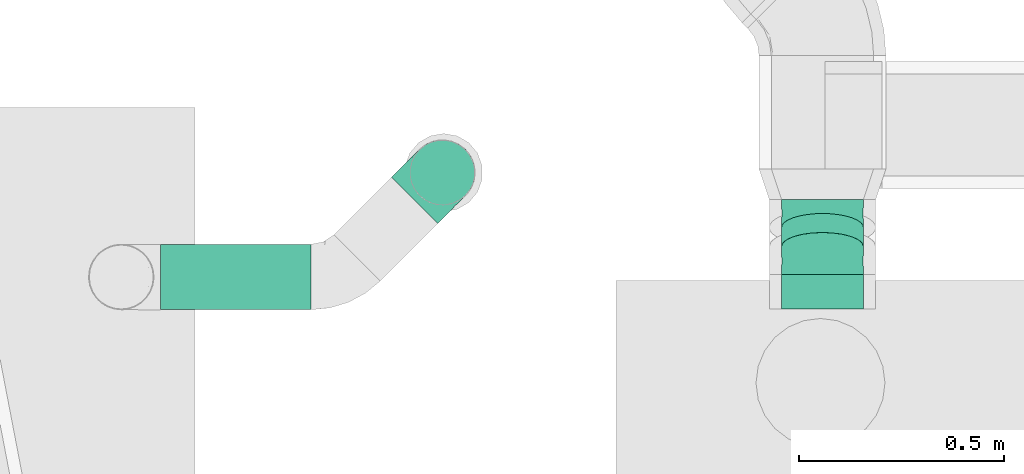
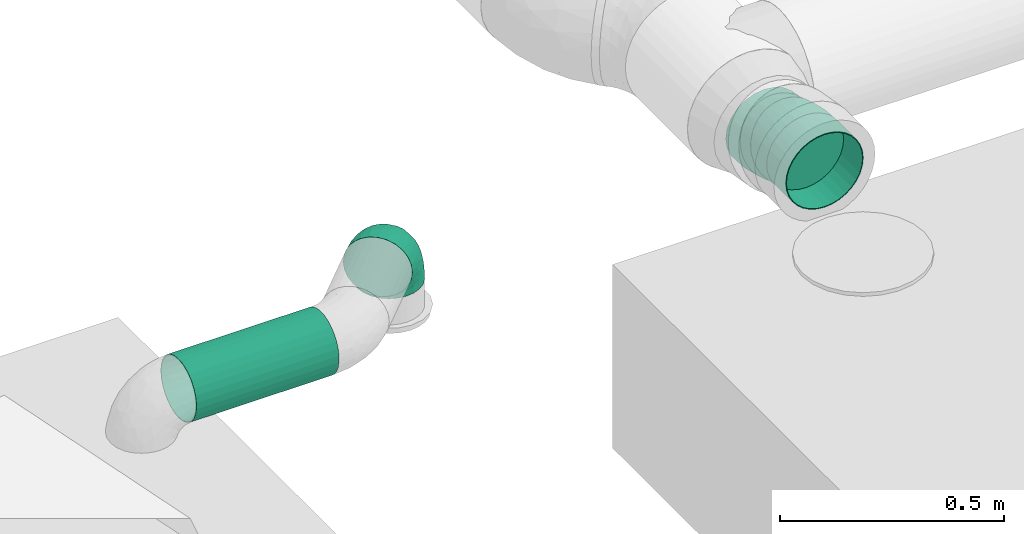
# One storey, part 12 of 21: 3 flow fittings, 3 flow segments.
"""IFC2X3 building model written with IfcOpenShell, lengths in millimetres."""

from ifc_helpers import new_model, entity, si_unit, converted_unit, derived_unit, direction, frame, origin_with_axes, origin_2d_with_axis, place, context, subcontext, project, spatial, hollow_circle, extrude, open_shell, surface_model, source, transform, mapped, type_object, element, save


model = new_model("IFC2X3")

# Units and contexts
model_context = context("Model", 3, precision=0.01, world=frame((0.0, 4.29681676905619e-09, 0.0)), true_north=direction((4.01073788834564e-13, 1.0)))
plan_context = context("Plan", 3, precision=0.01, world=frame((0.0, 4.29681676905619e-09, 0.0)), true_north=direction((4.01073788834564e-13, 1.0)))
body_context = subcontext(model_context, "Body", "Model", "MODEL_VIEW")
ifc_project = project(units=[converted_unit("PLANEANGLEUNIT", "DEGREE", entity("IfcPositiveLengthMeasure", 0.0174532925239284), si_unit("PLANEANGLEUNIT", "RADIAN"), dimensions=[0, 0, 0, 0, 0, 0, 0]), si_unit("AREAUNIT", "SQUARE_METRE"), si_unit("LENGTHUNIT", "METRE", prefix="MILLI"), si_unit("MASSUNIT", "GRAM", prefix="KILO"), si_unit("POWERUNIT", "WATT"), si_unit("PRESSUREUNIT", "PASCAL"), si_unit("FORCEUNIT", "NEWTON", prefix="KILO"), si_unit("ELECTRICVOLTAGEUNIT", "VOLT"), si_unit("ELECTRICCURRENTUNIT", "AMPERE"), si_unit("THERMODYNAMICTEMPERATUREUNIT", "DEGREE_CELSIUS"), si_unit("TIMEUNIT", "SECOND"), si_unit("VOLUMEUNIT", "CUBIC_METRE"), derived_unit("LINEARVELOCITYUNIT", [(si_unit("LENGTHUNIT", "METRE"), 1), (si_unit("TIMEUNIT", "SECOND"), -1)]), derived_unit("VOLUMETRICFLOWRATEUNIT", [(si_unit("VOLUMEUNIT", "CUBIC_METRE"), 1), (si_unit("TIMEUNIT", "SECOND"), -1)]), derived_unit("THERMALTRANSMITTANCEUNIT", [(si_unit("POWERUNIT", "WATT"), 1), (si_unit("THERMODYNAMICTEMPERATUREUNIT", "KELVIN"), -1), (si_unit("AREAUNIT", "SQUARE_METRE"), -1)]), derived_unit("SOUNDPRESSUREUNIT", [(si_unit("PRESSUREUNIT", "PASCAL"), 1)])], contexts=[model_context, plan_context])

# Site, building, storey
site_placement = place(None, frame((0.0, -4.29681676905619e-09, 0.0), z_axis=(0.0, 0.0, 1.0), x_axis=(1.0, 0.0, 0.0)))
site = spatial("IfcSite", under=ifc_project, at=site_placement, Name="ENGM", CompositionType="ELEMENT")
building_placement = place(site_placement, frame((0.0, 4.29681676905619e-09, 0.0), z_axis=(0.0, 0.0, 1.0), x_axis=(1.0, 0.0, 0.0)))
building = spatial("IfcBuilding", under=site, at=building_placement, Name="TI", CompositionType="ELEMENT")
storey_placement = place(building_placement, frame((0.0, 0.0, 210900.0), z_axis=(0.0, 0.0, 1.0), x_axis=(1.0, 0.0, 0.0)))
storey = spatial("IfcBuildingStorey", under=building, at=storey_placement, Name="Nivå F", CompositionType="ELEMENT", Elevation=210900.0)

# Flow fittings
duct_fitting_type_1 = type_object("IfcDuctFittingType", Name="magicirc_elbow_short_001", PredefinedType="BEND")
shared_shape_1 = source(origin_with_axes(), body_context, "Body", "SurfaceModel", [
    surface_model("IfcShellBasedSurfaceModel", [(-96.0, 40.0, -69.28203), (-96.0, 20.70552, -77.27406), (-96.0, 0.0, -80.0), (-96.0, -56.56854, -56.56854), (-96.0, 77.27406, -20.70552), (-96.0, 69.28203, -40.0), (-96.0, 56.56854, -56.56854), (-96.0, -80.0, 0.0), (-96.0, 80.0, 0.0), (-96.0, -40.0, -69.28203), (-96.0, -20.70552, -77.27406), (-96.0, -77.27406, -20.70552), (-96.0, -69.28203, -40.0), (-96.0, 69.28203, 40.0), (-96.0, 77.27406, 20.70552), (-96.0, 56.56854, 56.56854), (-96.0, 20.70552, 77.27406), (-96.0, 40.0, 69.28203), (-96.0, -56.56854, 56.56854), (-96.0, -77.27406, 20.70552), (-96.0, -69.28203, 40.0), (-96.0, -40.0, 69.28203), (-96.0, -20.70552, 77.27406), (-96.0, 0.0, 80.0), (0.0, 96.0, -80.0), (-20.70552, 96.0, -77.27406), (-40.0, 96.0, -69.28203), (56.56854, 96.0, -56.56854), (-56.56854, 96.0, -56.56854), (-69.28203, 96.0, -40.0), (-77.27406, 96.0, -20.70552), (-69.28203, 96.0, 40.0), (80.0, 96.0, 0.0), (20.70552, 96.0, -77.27406), (40.0, 96.0, -69.28203), (69.28203, 96.0, -40.0), (77.27406, 96.0, -20.70552), (-80.0, 96.0, 0.0), (-77.27406, 96.0, 20.70552), (-20.70552, 96.0, 77.27406), (-56.56854, 96.0, 56.56854), (-40.0, 96.0, 69.28203), (56.56854, 96.0, 56.56854), (69.28203, 96.0, 40.0), (77.27406, 96.0, 20.70552), (20.70552, 96.0, 77.27406), (40.0, 96.0, 69.28203), (0.0, 96.0, 80.0), (-69.65714, 6.28172, 79.96111), (-55.13809, -64.44506, 39.50294), (-78.49025, -65.24822, 44.92297), (-66.78623, -74.13872, 22.97955), (-79.91237, 22.41513, 77.28168), (-75.12502, 46.35062, 68.0012), (-46.28207, -43.73977, 60.51883), (-62.97607, -34.53622, 70.0448), (-67.13167, -51.75304, 58.52047), (-50.44785, -74.00295, 0.0), (-76.22768, -77.39693, 0.0), (-27.18937, 68.98054, 76.89414), (-6.30632, 70.64214, 79.95132), (-47.75845, -13.62124, 76.38812), (-29.86092, -28.96824, 65.87602), (57.60059, 33.47196, 39.01765), (51.75305, 67.13168, 58.52047), (43.73976, 46.28206, 60.51883), (-74.25916, -14.36459, 78.28299), (10.2254, -42.43563, 0.0), (-6.4993, -53.78904, 15.46457), (-8.0, -56.42047, 0.0), (-84.19087, 70.906, 41.71004), (24.72725, -2.06889, 53.4325), (-0.01802, -25.92843, 53.83674), (10.21505, -32.07542, 38.02021), (-64.56198, 27.52019, 77.2893), (-41.75749, 15.12314, 79.98806), (-96.0, 30.35276, 73.27805), (-24.53367, -60.96696, 23.50038), (-29.22392, -65.21171, 0.0), (-16.40083, 51.31221, 79.86096), (-83.05291, 83.05291, 19.0855), (-84.68629, 84.68629, 0.0), (-82.41856, 62.2587, 53.33399), (-46.30222, 75.90275, 67.84453), (-9.52607, -47.72322, 35.41872), (74.13872, 66.78623, 22.97955), (14.36459, 74.25915, 78.28299), (34.53622, 62.97607, 70.04481), (65.24823, 78.49025, 44.92297), (-12.39357, 25.40172, 78.86526), (-25.63177, 1.26407, 76.9124), (69.81868, 42.56251, 16.79807), (64.44506, 55.13809, 39.50294), (60.96696, 24.53367, 23.50038), (77.39693, 76.22768, 0.0), (74.00295, 50.44785, 0.0), (-66.59951, 66.59951, 58.63708), (-52.47749, 53.06315, 72.00416), (-76.48575, 78.93853, 38.58675), (-62.2587, 82.41856, 53.33399), (28.96823, 29.86091, 65.87602), (13.62124, 47.75844, 76.38812), (-33.73129, 40.02145, 79.0537), (46.13369, 26.24415, 50.15154), (42.43563, -10.2254, 0.0), (56.42047, 8.0, 0.0), (50.0006, 1.26038, 17.57639), (-45.45369, -68.83564, 23.69149), (-33.34939, -57.45722, 39.17207), (23.38464, -27.90661, 24.78871), (35.96834, -11.07246, 30.53911), (-26.24416, -46.1337, 50.15154), (36.67491, -17.59821, 14.56442), (28.45079, -28.45079, 0.0), (65.21171, 29.22392, 0.0), (49.59687, 12.14401, 34.83259), (-47.15333, 29.07461, 78.91273), (-0.98172, 51.31629, 79.49208), (12.49517, 20.08048, 71.22925), (-1.95171, 1.9517, 70.92726), (13.07254, 1.13338, 63.57905), (-1.93327, -13.48238, 63.7412), (-18.92982, -13.00489, 70.66721), (7.85136, -42.49384, 21.32329), (-68.98054, 27.18937, -76.89414), (-22.41513, 79.91236, -77.28168), (-27.52019, 64.56198, -77.2893), (-46.35062, 75.12502, -68.0012), (-74.25916, -14.36459, -78.28299), (-42.56251, -69.81867, -16.79807), (-66.78623, -74.13872, -22.97955), (-70.64214, 6.30632, -79.95132), (-25.40172, 12.39356, -78.86526), (-15.12315, 41.75749, -79.98806), (-1.26408, 25.63177, -76.9124), (-78.93853, 76.48575, -38.58675), (-66.59952, 66.59951, -58.63708), (-82.41856, 62.2587, -53.33399), (60.96695, 24.53367, -23.50038), (53.78904, 6.4993, -15.46457), (-55.13809, -64.44506, -39.50294), (-24.53367, -60.96696, -23.50038), (-29.86092, -28.96824, -65.87602), (-26.24416, -46.1337, -50.15154), (-46.28207, -43.73977, -60.51883), (74.13872, 66.78623, -22.97955), (-40.02145, 33.73129, -79.0537), (-78.49025, -65.24822, -44.92297), (-75.90275, 46.30222, -67.84453), (-70.906, 84.19087, -41.71005), (-67.13167, -51.75305, -58.52047), (-62.97607, -34.53622, -70.0448), (-33.47196, -57.60059, -39.01766), (-51.31221, 16.40082, -79.86096), (-6.28172, 69.65713, -79.96111), (51.75304, 67.13167, -58.52047), (-83.05291, 83.05291, -19.0855), (68.83563, 45.45369, -23.69149), (-62.2587, 82.41856, -53.33399), (34.53622, 62.97606, -70.0448), (-1.26039, -50.0006, -17.5764), (-30.35276, 96.0, -73.27805), (13.62124, 47.75844, -76.38812), (14.36459, 74.25915, -78.28299), (65.24822, 78.49025, -44.92298), (2.06888, -24.72726, -53.4325), (25.92842, 0.01801, -53.83674), (32.07541, -10.21507, -38.02021), (47.72321, 9.52606, -35.41872), (28.96823, 29.86092, -65.87602), (64.44506, 55.13809, -39.50294), (-53.06315, 52.47748, -72.00416), (43.73977, 46.28207, -60.51883), (-47.75844, -13.62124, -76.38812), (57.45722, 33.34938, -39.17207), (27.90661, -23.38464, -24.78871), (11.07245, -35.96834, -30.53911), (46.1337, 26.24416, -50.15154), (17.5982, -36.67492, -14.56442), (-12.14401, -49.59687, -34.8326), (-29.07462, 47.15333, -78.91272), (-51.31629, 0.98172, -79.49208), (-20.08047, -12.49518, -71.22924), (-1.9517, 1.9517, -70.92726), (-1.13337, -13.07254, -63.57905), (13.48238, 1.93328, -63.7412), (13.00488, 18.92982, -70.66721), (42.49384, -7.85136, -21.32329)], [open_shell([[[0, 1, 2]], [[0, 2, 3]], [[4, 5, 6]], [[6, 0, 3]], [[6, 7, 8]], [[9, 3, 10]], [[3, 2, 10]], [[11, 7, 12]], [[3, 12, 7]], [[3, 7, 6]], [[8, 4, 6]], [[13, 14, 8]], [[15, 13, 8]], [[16, 17, 15]], [[8, 16, 15]], [[18, 16, 8]], [[19, 20, 7]], [[7, 20, 18]], [[21, 22, 18]], [[22, 16, 18]], [[16, 22, 23]], [[8, 7, 18]], [[24, 25, 26]], [[27, 24, 26]], [[28, 29, 30]], [[31, 32, 26]], [[28, 31, 26]], [[33, 27, 34]], [[33, 24, 27]], [[35, 32, 36]], [[32, 35, 27]], [[26, 32, 27]], [[28, 30, 37]], [[37, 38, 31]], [[31, 39, 32]], [[40, 41, 39]], [[40, 39, 31]], [[32, 39, 42]], [[32, 43, 44]], [[42, 43, 32]], [[42, 45, 46]], [[42, 39, 45]], [[47, 45, 39]], [[28, 37, 31]], [[16, 23, 48]], [[49, 50, 51]], [[52, 53, 17]], [[54, 55, 56]], [[57, 51, 58]], [[39, 59, 60]], [[61, 55, 62]], [[63, 64, 65]], [[50, 18, 20]], [[56, 55, 21]], [[66, 23, 22]], [[67, 68, 69]], [[70, 14, 13]], [[55, 61, 66]], [[71, 72, 73]], [[74, 48, 75]], [[22, 21, 55]], [[17, 53, 15]], [[17, 76, 52]], [[77, 78, 69]], [[79, 60, 59]], [[8, 80, 81]], [[55, 54, 62]], [[8, 14, 80]], [[82, 70, 13]], [[21, 18, 56]], [[13, 15, 82]], [[41, 83, 59]], [[73, 72, 84]], [[51, 19, 58]], [[51, 20, 19]], [[43, 85, 44]], [[64, 42, 46]], [[86, 87, 45]], [[43, 42, 88]], [[46, 45, 87]], [[89, 75, 90]], [[85, 43, 88]], [[91, 92, 93]], [[87, 64, 46]], [[52, 76, 16]], [[85, 94, 44]], [[41, 40, 83]], [[91, 95, 85]], [[83, 96, 97]], [[38, 98, 31]], [[80, 98, 38]], [[98, 96, 99]], [[100, 87, 101]], [[81, 80, 37]], [[77, 69, 68]], [[41, 59, 39]], [[59, 83, 97]], [[102, 75, 89]], [[100, 103, 65]], [[40, 31, 99]], [[39, 60, 47]], [[104, 105, 106]], [[107, 49, 51]], [[86, 45, 47]], [[77, 107, 78]], [[57, 78, 107]], [[49, 107, 108]], [[73, 109, 110]], [[108, 84, 111]], [[104, 112, 113]], [[103, 100, 71]], [[114, 91, 93]], [[60, 86, 47]], [[114, 93, 105]], [[115, 93, 63]], [[93, 115, 106]], [[66, 48, 23]], [[116, 75, 102]], [[74, 116, 97]], [[82, 53, 96]], [[99, 83, 40]], [[96, 53, 97]], [[79, 59, 102]], [[60, 117, 86]], [[65, 64, 87]], [[88, 64, 92]], [[50, 56, 18]], [[56, 49, 108]], [[48, 61, 75]], [[90, 75, 61]], [[118, 89, 119]], [[79, 117, 60]], [[119, 120, 118]], [[71, 110, 115]], [[119, 121, 120]], [[122, 121, 119]], [[72, 62, 111]], [[90, 122, 119]], [[72, 111, 84]], [[71, 120, 121]], [[74, 97, 53]], [[59, 97, 102]], [[19, 7, 58]], [[94, 85, 95]], [[94, 32, 44]], [[87, 86, 101]], [[55, 66, 22]], [[48, 66, 61]], [[98, 99, 31]], [[83, 99, 96]], [[53, 82, 15]], [[70, 96, 98]], [[102, 89, 79]], [[117, 89, 101]], [[89, 117, 79]], [[86, 117, 101]], [[96, 70, 82]], [[70, 98, 80]], [[80, 14, 70]], [[37, 80, 38]], [[51, 50, 20]], [[56, 50, 49]], [[64, 88, 42]], [[85, 88, 92]], [[52, 48, 74]], [[48, 52, 16]], [[52, 74, 53]], [[107, 51, 57]], [[108, 107, 77]], [[77, 68, 84]], [[108, 111, 54]], [[77, 84, 108]], [[84, 123, 73]], [[109, 73, 123]], [[71, 73, 110]], [[113, 109, 123]], [[93, 106, 105]], [[109, 112, 110]], [[92, 63, 93]], [[112, 106, 110]], [[113, 112, 109]], [[106, 112, 104]], [[71, 115, 103]], [[110, 106, 115]], [[64, 63, 92]], [[103, 115, 63]], [[67, 113, 123]], [[84, 68, 123]], [[68, 67, 123]], [[95, 91, 114]], [[92, 91, 85]], [[100, 65, 87]], [[63, 65, 103]], [[108, 54, 56]], [[62, 54, 111]], [[97, 116, 102]], [[74, 75, 116]], [[122, 61, 62]], [[89, 90, 119]], [[61, 122, 90]], [[121, 62, 72]], [[62, 121, 122]], [[71, 121, 72]], [[71, 100, 120]], [[118, 120, 100]], [[100, 101, 118]], [[89, 118, 101]], [[0, 124, 1]], [[125, 126, 127]], [[10, 2, 128]], [[129, 57, 130]], [[1, 131, 2]], [[132, 133, 134]], [[135, 136, 137]], [[138, 105, 139]], [[5, 137, 6]], [[129, 140, 141]], [[5, 4, 135]], [[142, 143, 144]], [[145, 35, 36]], [[146, 133, 132]], [[130, 12, 147]], [[0, 6, 148]], [[130, 58, 11]], [[149, 30, 29]], [[150, 9, 151]], [[152, 150, 144]], [[3, 9, 150]], [[9, 10, 151]], [[153, 131, 124]], [[3, 147, 12]], [[25, 24, 154]], [[10, 128, 151]], [[12, 130, 11]], [[34, 27, 155]], [[8, 81, 156]], [[138, 157, 114]], [[37, 30, 156]], [[156, 135, 4]], [[29, 158, 149]], [[33, 34, 159]], [[67, 69, 160]], [[28, 158, 29]], [[26, 161, 125]], [[148, 124, 0]], [[126, 154, 133]], [[159, 162, 163]], [[164, 27, 35]], [[28, 26, 127]], [[165, 166, 167]], [[33, 163, 24]], [[168, 167, 166]], [[1, 124, 131]], [[138, 114, 105]], [[104, 139, 105]], [[162, 159, 169]], [[155, 159, 34]], [[170, 164, 145]], [[148, 136, 171]], [[145, 94, 95]], [[159, 172, 169]], [[142, 151, 173]], [[155, 172, 159]], [[124, 148, 171]], [[125, 127, 26]], [[95, 114, 157]], [[156, 4, 8]], [[157, 170, 145]], [[145, 36, 94]], [[170, 157, 174]], [[167, 175, 176]], [[174, 168, 177]], [[67, 178, 113]], [[143, 142, 165]], [[78, 129, 141]], [[36, 32, 94]], [[78, 141, 69]], [[179, 141, 152]], [[141, 179, 160]], [[163, 154, 24]], [[126, 133, 180]], [[126, 180, 171]], [[158, 127, 136]], [[137, 148, 6]], [[136, 127, 171]], [[153, 124, 146]], [[131, 181, 128]], [[144, 150, 151]], [[147, 150, 140]], [[164, 155, 27]], [[155, 170, 174]], [[154, 162, 133]], [[134, 133, 162]], [[182, 132, 183]], [[153, 181, 131]], [[183, 184, 182]], [[165, 176, 179]], [[183, 185, 184]], [[186, 185, 183]], [[166, 169, 177]], [[134, 186, 183]], [[166, 177, 168]], [[165, 184, 185]], [[126, 171, 127]], [[124, 171, 146]], [[58, 130, 57]], [[58, 7, 11]], [[131, 128, 2]], [[151, 128, 173]], [[159, 163, 33]], [[154, 163, 162]], [[135, 137, 5]], [[148, 137, 136]], [[127, 158, 28]], [[149, 136, 135]], [[146, 132, 153]], [[181, 132, 173]], [[132, 181, 153]], [[128, 181, 173]], [[136, 149, 158]], [[149, 135, 156]], [[37, 156, 81]], [[156, 30, 149]], [[145, 164, 35]], [[155, 164, 170]], [[150, 147, 3]], [[130, 147, 140]], [[126, 125, 154]], [[25, 154, 125]], [[161, 25, 125]], [[157, 145, 95]], [[174, 157, 138]], [[138, 139, 168]], [[174, 177, 172]], [[138, 168, 174]], [[168, 187, 167]], [[175, 167, 187]], [[165, 167, 176]], [[113, 175, 187]], [[141, 160, 69]], [[175, 178, 176]], [[140, 152, 141]], [[178, 160, 176]], [[113, 178, 175]], [[160, 178, 67]], [[165, 179, 143]], [[176, 160, 179]], [[150, 152, 140]], [[143, 179, 152]], [[104, 113, 187]], [[168, 139, 187]], [[139, 104, 187]], [[57, 129, 78]], [[140, 129, 130]], [[142, 144, 151]], [[152, 144, 143]], [[174, 172, 155]], [[169, 172, 177]], [[133, 146, 180]], [[171, 180, 146]], [[186, 162, 169]], [[132, 134, 183]], [[162, 186, 134]], [[185, 169, 166]], [[169, 185, 186]], [[165, 185, 166]], [[165, 142, 184]], [[182, 184, 142]], [[142, 173, 182]], [[132, 182, 173]]])]),
])
flow_fitting_placement = place(storey_placement, frame((608801.18353, 691076.23442, 2566.97847999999), z_axis=(0.707106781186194, -0.707106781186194, 9.99999690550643e-07), x_axis=(-7.07106562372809e-07, 7.07106562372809e-07, 0.9999999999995)))
element("IfcFlowFitting", 1, at=flow_fitting_placement, inside=storey, type_object=duct_fitting_type_1, Name="magicirc_elbow_short_001", context=body_context, shape_type="MappedRepresentation", body=[
    mapped(shared_shape_1, transform((0.0, 0.0, 0.0), scale=1.0)),
])
duct_fitting_type_2 = type_object("IfcDuctFittingType", Name="magicirc_elbow_full_radius_001", PredefinedType="BEND")
shared_shape_2 = source(origin_with_axes(), body_context, "Body", "SurfaceModel", [
    surface_model("IfcShellBasedSurfaceModel", [(-35.2654, 25.8819, -96.59259), (-35.2654, 0.0, -100.0), (-35.2654, 96.59259, -25.8819), (-35.2654, 50.0, -86.60254), (-35.2654, 86.60254, -50.0), (-35.2654, 70.71068, -70.71068), (-35.2654, -70.71068, -70.71068), (-35.2654, -50.0, -86.60254), (-35.2654, -25.8819, -96.59259), (-35.2654, -86.60254, -50.0), (-35.2654, -96.59259, -25.8819), (-35.2654, -50.0, 86.60254), (-35.2654, -100.0, 0.0), (-35.2654, -96.59259, 25.8819), (-35.2654, 96.59259, 25.8819), (-35.2654, 100.0, 0.0), (-35.2654, 25.8819, 96.59259), (-35.2654, 86.60254, 50.0), (-35.2654, 70.71068, 70.71068), (-35.2654, 50.0, 86.60254), (-35.2654, -86.60254, 50.0), (-35.2654, -70.71068, 70.71068), (-35.2654, -25.8819, 96.59259), (-35.2654, 0.0, 100.0), (33.13863, 12.06148, -100.0), (24.2865, 36.38251, -96.59259), (16.03762, 59.04611, -86.60254), (57.32311, -54.38483, -70.71068), (3.51882, 93.44124, -50.0), (0.10202, 102.82882, -25.8819), (8.95416, 78.50778, -70.71068), (62.75845, -69.31829, -50.0), (41.99076, -12.25956, -96.59259), (50.23964, -34.92315, -86.60254), (66.17524, -78.70586, -25.8819), (67.34065, -81.90778, 0.0), (3.51882, 93.44124, 50.0), (0.10202, 102.82882, 25.8819), (50.23964, -34.92315, 86.60254), (16.03762, 59.04611, 86.60254), (24.2865, 36.38251, 96.59259), (8.95416, 78.50778, 70.71068), (41.99076, -12.25956, 96.59259), (62.75845, -69.31829, 50.0), (57.32311, -54.38483, 70.71068), (66.17524, -78.70586, 25.8819), (33.13863, 12.06148, 100.0), (-1.06338, 106.03074, 0.0), (10.26605, -58.22165, 78.29765), (5.86662, -77.21666, 59.66315), (15.63178, -88.65224, 36.48875), (1.9808, -11.2337, 98.94429), (7.65098, -35.79456, 91.79557), (-2.5719, 14.58596, 99.31016), (-17.90058, 101.51922, 0.0), (-0.37701, -96.21365, 18.56723), (-6.98461, 39.61171, 92.84831), (16.82906, -95.44233, 0.0), (34.74187, -90.11431, 17.58609), (1.9808, -11.2337, -98.94429), (5.0529, -36.25267, -91.79557), (33.26128, -90.28232, -18.56723), (15.63178, -88.65224, -36.48875), (-2.5719, 14.58596, -99.31016), (20.89683, -74.56643, -59.66315), (-6.98462, 39.61171, -92.84831), (-1.82576, -96.56217, -17.58609), (10.26605, -58.22165, -78.29765)], [open_shell([[[0, 1, 2]], [[3, 0, 2]], [[2, 4, 5]], [[3, 2, 5]], [[6, 2, 1]], [[7, 6, 8]], [[6, 1, 8]], [[9, 10, 6]], [[11, 6, 10]], [[10, 12, 13]], [[2, 6, 11]], [[14, 15, 16]], [[17, 14, 18]], [[14, 16, 19]], [[18, 14, 19]], [[11, 16, 15]], [[20, 21, 13]], [[11, 13, 21]], [[10, 13, 11]], [[11, 22, 16]], [[22, 23, 16]], [[15, 2, 11]], [[24, 25, 26]], [[27, 24, 26]], [[28, 29, 26]], [[28, 26, 30]], [[31, 26, 29]], [[32, 27, 33]], [[32, 24, 27]], [[29, 34, 31]], [[31, 27, 26]], [[34, 29, 35]], [[29, 36, 35]], [[37, 36, 29]], [[36, 38, 35]], [[39, 40, 36]], [[39, 36, 41]], [[42, 36, 40]], [[43, 38, 44]], [[38, 43, 45]], [[38, 45, 35]], [[36, 42, 38]], [[40, 46, 42]], [[29, 47, 37]], [[48, 21, 49]], [[11, 21, 48]], [[21, 20, 49]], [[45, 43, 50]], [[51, 52, 42]], [[11, 48, 52]], [[20, 50, 49]], [[23, 22, 51]], [[23, 53, 16]], [[11, 52, 22]], [[50, 20, 13]], [[44, 38, 48]], [[17, 18, 36]], [[19, 41, 18]], [[42, 46, 51]], [[52, 51, 22]], [[46, 40, 53]], [[54, 14, 37]], [[55, 50, 13]], [[54, 15, 14]], [[37, 14, 17]], [[53, 56, 16]], [[19, 16, 56]], [[51, 53, 23]], [[12, 57, 55]], [[43, 49, 50]], [[48, 38, 52]], [[42, 52, 38]], [[53, 51, 46]], [[44, 48, 49]], [[44, 49, 43]], [[35, 45, 58]], [[36, 37, 17]], [[47, 54, 37]], [[58, 55, 57]], [[12, 55, 13]], [[19, 56, 39]], [[50, 58, 45]], [[19, 39, 41]], [[36, 18, 41]], [[53, 40, 56]], [[35, 58, 57]], [[50, 55, 58]], [[40, 39, 56]], [[1, 59, 8]], [[33, 60, 32]], [[61, 62, 34]], [[0, 63, 1]], [[4, 28, 5]], [[59, 63, 24]], [[5, 26, 3]], [[27, 31, 64]], [[29, 4, 2]], [[9, 64, 62]], [[60, 59, 32]], [[65, 0, 3]], [[12, 10, 66]], [[62, 61, 66]], [[67, 6, 7]], [[63, 65, 25]], [[10, 9, 62]], [[9, 6, 64]], [[60, 67, 7]], [[66, 61, 57]], [[62, 66, 10]], [[2, 15, 54]], [[54, 47, 29]], [[31, 62, 64]], [[29, 28, 4]], [[30, 5, 28]], [[7, 8, 60]], [[65, 26, 25]], [[6, 67, 64]], [[59, 60, 8]], [[26, 5, 30]], [[63, 0, 65]], [[24, 63, 25]], [[60, 33, 67]], [[59, 1, 63]], [[26, 65, 3]], [[67, 33, 27]], [[31, 34, 62]], [[12, 66, 57]], [[35, 57, 61]], [[27, 64, 67]], [[35, 61, 34]], [[32, 59, 24]], [[2, 54, 29]]])]),
])
for number, where, z_axis, x_axis, name in (
    (2, (609729.51365, 690975.29135, 2600.0), (-1.0, 0.0, 0.0), (0.0, -1.0, 0.0), "magicirc_elbow_full_radius_001"),
    (3, (609729.51365, 690862.52823, 2641.04242000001), (1.0, 0.0, 0.0), (0.0, -0.939692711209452, 0.342019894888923), "magicirc_elbow_full_radius_001"),
):
    element("IfcFlowFitting", number, at=place(storey_placement, frame(where, z_axis=z_axis, x_axis=x_axis)), inside=storey, type_object=duct_fitting_type_2, Name=name, context=body_context, shape_type="MappedRepresentation", body=[
        mapped(shared_shape_2, transform((0.0, 0.0, 0.0), scale=1.0)),
    ])

# Flow segments
duct_segment_type = type_object("IfcDuctSegmentType", Name="2 - Spiro kanaler, Forsinket stål", PredefinedType="RIGIDSEGMENT")
shared_shape_3 = source(origin_with_axes(), body_context, "Body", "SweptSolid", [
    extrude(hollow_circle(Radius=100.0, WallThickness=2.0, at=origin_2d_with_axis()), frame((0.0, 0.0, 0.0), z_axis=(1.0, 0.0, 0.0), x_axis=(0.0, 1.0, 0.0)), (0.0, 0.0, 1.0), 49.5),
])
flow_segment_1_placement = place(storey_placement, frame((609729.51365, 690942.15271, 2612.06148), z_axis=(0.0, 0.342019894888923, 0.939692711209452), x_axis=(0.0, -0.939692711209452, 0.342019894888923)))
element("IfcFlowSegment", 4, at=flow_segment_1_placement, inside=storey, type_object=duct_segment_type, Name="2 - Spiro kanaler, Forsinket stål", context=body_context, shape_type="MappedRepresentation", body=[
    mapped(shared_shape_3, transform((0.0, 0.0, 0.0), scale=1.0)),
])
shared_shape_4 = source(origin_with_axes(), body_context, "Body", "SweptSolid", [
    extrude(hollow_circle(Radius=100.0, WallThickness=2.0, at=origin_2d_with_axis()), frame((0.0, 0.0, 0.0), z_axis=(1.0, 0.0, 0.0), x_axis=(0.0, 1.0, 0.0)), (0.0, 0.0, 1.0), 84.7),
])
flow_segment_2_placement = place(storey_placement, frame((609729.51365, 690827.26283, 2641.04242000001), z_axis=(0.0, 0.0, 1.0), x_axis=(0.0, -1.0, 0.0)))
element("IfcFlowSegment", 5, at=flow_segment_2_placement, inside=storey, type_object=duct_segment_type, Name="2 - Spiro kanaler, Forsinket stål", context=body_context, shape_type="MappedRepresentation", body=[
    mapped(shared_shape_4, transform((0.0, 0.0, 0.0), scale=1.0)),
])
shared_shape_5 = source(origin_with_axes(), body_context, "Body", "SweptSolid", [
    extrude(hollow_circle(Radius=80.0, WallThickness=2.0, at=origin_2d_with_axis()), frame((0.0, 0.0, 0.0), z_axis=(1.0, 0.0, 0.0), x_axis=(0.0, 1.0, 0.0)), (0.0, 0.0, 1.0), 367.1),
])
flow_segment_3_placement = place(storey_placement, frame((608112.84802, 690821.23442, 2566.97847999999), z_axis=(0.0, 0.0, 1.0), x_axis=(1.0, 0.0, 0.0)))
element("IfcFlowSegment", 6, at=flow_segment_3_placement, inside=storey, type_object=duct_segment_type, Name="2 - Spiro kanaler, Forsinket stål", context=body_context, shape_type="MappedRepresentation", body=[
    mapped(shared_shape_5, transform((0.0, 0.0, 0.0), scale=1.0)),
])

save(model, "model.ifc")
